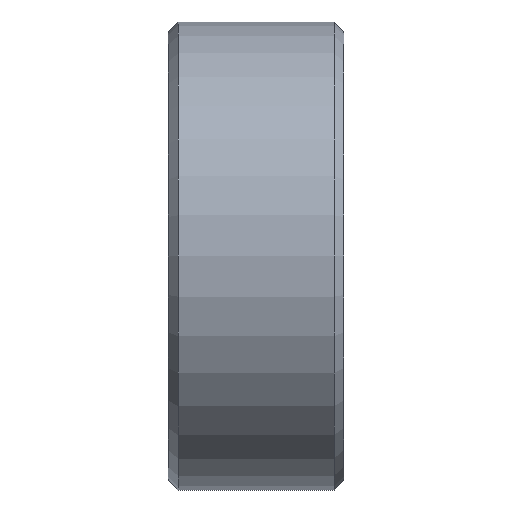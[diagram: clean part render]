
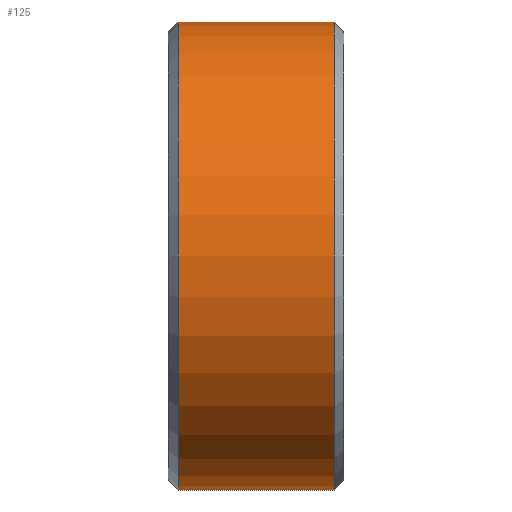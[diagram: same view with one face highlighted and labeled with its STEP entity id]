
A CAD part, front view. The second image highlights one B-rep face of the part: STEP entity #125.
In plain terms, the highlighted cylindrical face has radius 12 mm (diameter 24 mm), a full revolution.
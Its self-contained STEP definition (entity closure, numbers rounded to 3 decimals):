
#15=CYLINDRICAL_SURFACE('',#160,12.);
#23=FACE_OUTER_BOUND('',#32,.T.);
#32=EDGE_LOOP('',(#94,#95,#96,#97,#98,#99));
#40=LINE('',#233,#46);
#46=VECTOR('',#193,12.);
#52=CIRCLE('',#156,12.);
#53=CIRCLE('',#157,12.);
#55=CIRCLE('',#161,12.);
#56=CIRCLE('',#162,12.);
#62=VERTEX_POINT('',#220);
#63=VERTEX_POINT('',#222);
#65=VERTEX_POINT('',#229);
#66=VERTEX_POINT('',#230);
#73=EDGE_CURVE('',#62,#63,#52,.T.);
#74=EDGE_CURVE('',#63,#62,#53,.T.);
#76=EDGE_CURVE('',#65,#66,#55,.T.);
#77=EDGE_CURVE('',#66,#65,#56,.T.);
#78=EDGE_CURVE('',#66,#63,#40,.T.);
#94=ORIENTED_EDGE('',*,*,#76,.F.);
#95=ORIENTED_EDGE('',*,*,#77,.F.);
#96=ORIENTED_EDGE('',*,*,#78,.T.);
#97=ORIENTED_EDGE('',*,*,#73,.F.);
#98=ORIENTED_EDGE('',*,*,#74,.F.);
#99=ORIENTED_EDGE('',*,*,#78,.F.);
#125=ADVANCED_FACE('',(#23),#15,.T.);
#156=AXIS2_PLACEMENT_3D('',#223,#179,#180);
#157=AXIS2_PLACEMENT_3D('',#224,#181,#182);
#160=AXIS2_PLACEMENT_3D('',#228,#187,#188);
#161=AXIS2_PLACEMENT_3D('',#231,#189,#190);
#162=AXIS2_PLACEMENT_3D('',#232,#191,#192);
#179=DIRECTION('center_axis',(-1.,0.,0.));
#180=DIRECTION('ref_axis',(0.,-1.,0.));
#181=DIRECTION('center_axis',(-1.,0.,0.));
#182=DIRECTION('ref_axis',(0.,-1.,0.));
#187=DIRECTION('center_axis',(1.,0.,0.));
#188=DIRECTION('ref_axis',(0.,1.,0.));
#189=DIRECTION('center_axis',(1.,0.,0.));
#190=DIRECTION('ref_axis',(0.,-1.,0.));
#191=DIRECTION('center_axis',(1.,0.,0.));
#192=DIRECTION('ref_axis',(0.,-1.,0.));
#193=DIRECTION('',(-1.,0.,0.));
#220=CARTESIAN_POINT('',(-4.,12.,0.));
#222=CARTESIAN_POINT('',(-4.,-12.,0.));
#223=CARTESIAN_POINT('Origin',(-4.,0.,0.));
#224=CARTESIAN_POINT('Origin',(-4.,0.,0.));
#228=CARTESIAN_POINT('Origin',(0.,0.,0.));
#229=CARTESIAN_POINT('',(4.,12.,0.));
#230=CARTESIAN_POINT('',(4.,-12.,0.));
#231=CARTESIAN_POINT('Origin',(4.,0.,0.));
#232=CARTESIAN_POINT('Origin',(4.,0.,0.));
#233=CARTESIAN_POINT('',(0.,-12.,0.));
